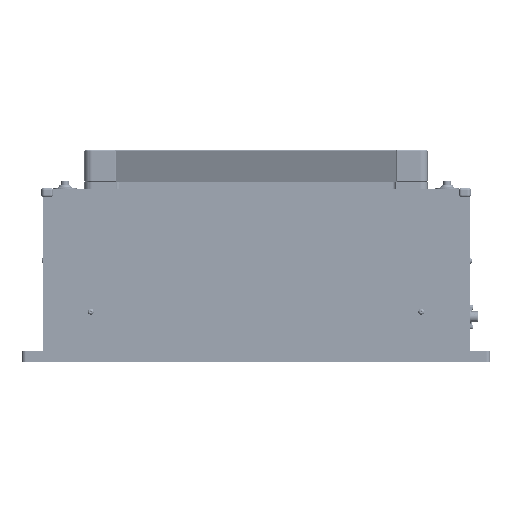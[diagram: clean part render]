
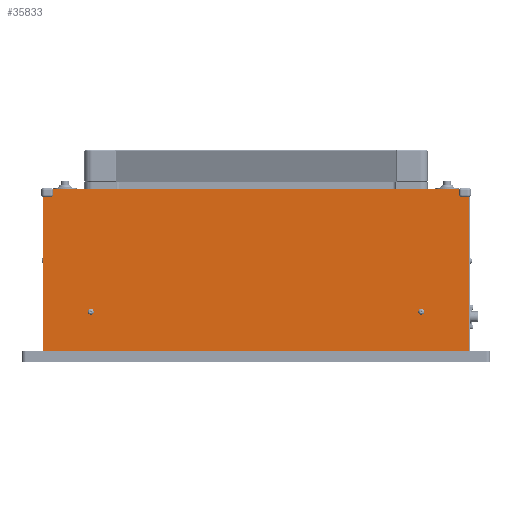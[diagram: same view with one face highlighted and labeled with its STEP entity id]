
A CAD part, left-side view. The second image highlights one B-rep face of the part: STEP entity #35833.
In plain terms, the highlighted planar face has unit normal (-1, 0, 0) as drawn and (0, 0, -1) by its records, which use the part's own axes.
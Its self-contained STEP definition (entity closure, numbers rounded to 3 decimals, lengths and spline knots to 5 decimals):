
#1732=PLANE('',#39820);
#4564=CIRCLE('',#39821,0.00215);
#4565=CIRCLE('',#39822,0.00215);
#11051=ORIENTED_EDGE('',*,*,#18031,.T.);
#11052=ORIENTED_EDGE('',*,*,#18032,.T.);
#11053=ORIENTED_EDGE('',*,*,#18024,.T.);
#11054=ORIENTED_EDGE('',*,*,#18033,.F.);
#11055=ORIENTED_EDGE('',*,*,#18034,.F.);
#11056=ORIENTED_EDGE('',*,*,#18035,.T.);
#18024=EDGE_CURVE('',#22048,#22047,#24345,.T.);
#18031=EDGE_CURVE('',#22053,#22053,#4564,.T.);
#18032=EDGE_CURVE('',#22054,#22054,#4565,.T.);
#18033=EDGE_CURVE('',#22055,#22047,#24350,.T.);
#18034=EDGE_CURVE('',#22056,#22055,#24351,.T.);
#18035=EDGE_CURVE('',#22056,#22048,#24352,.T.);
#22047=VERTEX_POINT('',#65762);
#22048=VERTEX_POINT('',#65764);
#22053=VERTEX_POINT('',#65778);
#22054=VERTEX_POINT('',#65780);
#22055=VERTEX_POINT('',#65782);
#22056=VERTEX_POINT('',#65784);
#24345=LINE('',#65763,#26244);
#24350=LINE('',#65781,#26249);
#24351=LINE('',#65783,#26250);
#24352=LINE('',#65785,#26251);
#26244=VECTOR('',#46670,1.);
#26249=VECTOR('',#46687,1.);
#26250=VECTOR('',#46688,1.);
#26251=VECTOR('',#46689,1.);
#29102=EDGE_LOOP('',(#11051));
#29103=EDGE_LOOP('',(#11052));
#29104=EDGE_LOOP('',(#11053,#11054,#11055,#11056));
#32450=FACE_BOUND('',#29102,.T.);
#32451=FACE_BOUND('',#29103,.T.);
#32452=FACE_BOUND('',#29104,.T.);
#35833=ADVANCED_FACE('',(#32450,#32451,#32452),#1732,.F.);
#39820=AXIS2_PLACEMENT_3D('',#65776,#46681,#46682);
#39821=AXIS2_PLACEMENT_3D('',#65777,#46683,#46684);
#39822=AXIS2_PLACEMENT_3D('',#65779,#46685,#46686);
#46670=DIRECTION('',(-1.,0.,0.));
#46681=DIRECTION('',(0.,0.,1.));
#46682=DIRECTION('',(1.,0.,0.));
#46683=DIRECTION('',(0.,0.,1.));
#46684=DIRECTION('',(1.,0.,0.));
#46685=DIRECTION('',(0.,0.,1.));
#46686=DIRECTION('',(1.,0.,0.));
#46687=DIRECTION('',(0.,-1.,0.));
#46688=DIRECTION('',(-1.,0.,0.));
#46689=DIRECTION('',(0.,-1.,0.));
#65762=CARTESIAN_POINT('',(-0.2735,-0.0585,0.));
#65763=CARTESIAN_POINT('',(0.,-0.0585,0.));
#65764=CARTESIAN_POINT('',(0.2715,-0.0585,0.));
#65776=CARTESIAN_POINT('',(0.,0.,0.));
#65777=CARTESIAN_POINT('',(0.211,-0.0085,0.));
#65778=CARTESIAN_POINT('',(0.21315,-0.0085,0.));
#65779=CARTESIAN_POINT('',(-0.213,-0.0085,0.));
#65780=CARTESIAN_POINT('',(-0.21085,-0.0085,0.));
#65781=CARTESIAN_POINT('',(-0.2735,0.,0.));
#65782=CARTESIAN_POINT('',(-0.2735,0.1485,0.));
#65783=CARTESIAN_POINT('',(0.,0.1485,0.));
#65784=CARTESIAN_POINT('',(0.2715,0.1485,0.));
#65785=CARTESIAN_POINT('',(0.2715,0.,0.));
